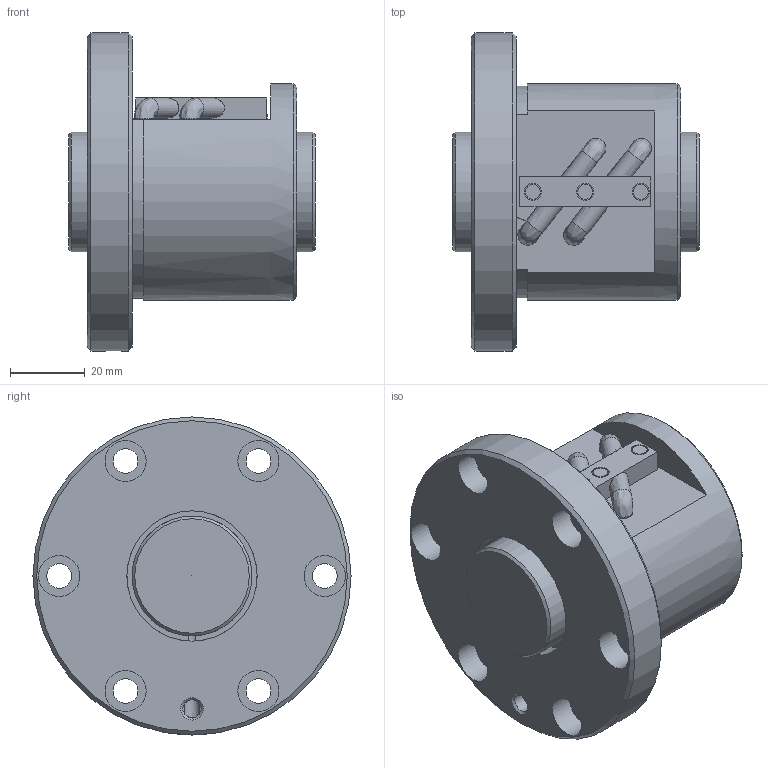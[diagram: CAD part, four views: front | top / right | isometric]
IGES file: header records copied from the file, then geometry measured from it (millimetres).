
Start section: Data from Parasolid IGES Translator 26.0.171, Copyright(c) 2006 Siemens PLM Software. All Rights Reserved.
Global section: file name: BIF3205V-5RRG0+66LC0_000.igs; native system: By Siemens PLM Incorporated; preprocessor: XPlus GENERIC/IGES 26.0.171; author: Noname; organization: Noname; date: 20240715.081832; units: millimetre
Bounding box: 66 x 85 x 85 mm (x, y, z)
Surface area: 38242.4 mm2 (no closed solid volume)
Topology: 0 solids, 0 shells, 98 faces, 462 edges, 431 vertices
Faces by surface type: revolution 57, extrusion 41
